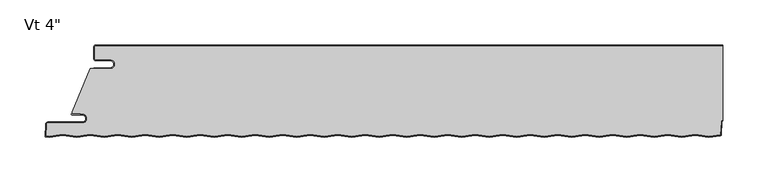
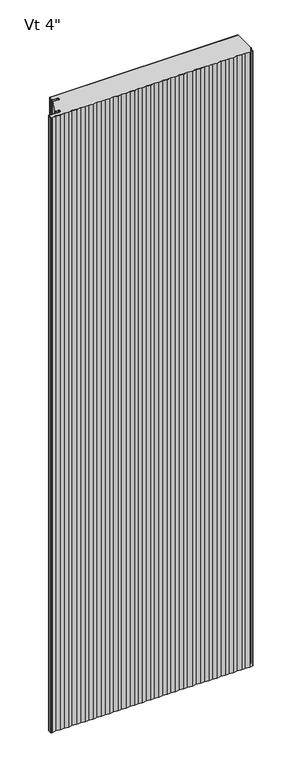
"""IFC4 building model written with IfcOpenShell, lengths in millimetres: plate geometry."""

from ifc_helpers import new_model, si_unit, point, frame_2d, origin, origin_with_axes, place, context, project, spatial, polyline, circle_curve, trimmed, segment, composite_curve, outline, extrude, source, transform, mapped, element, save


def plate_f1faa5ed(model_context):
    return source(origin(), model_context, "Body", "SweptSolid", [
        extrude(outline(composite_curve([segment(polyline([(-329.9499998, -16.4625), (-345.8249998, -16.4625)]), True, "CONTINUOUS"), segment(trimmed(circle_curve(frame_2d((-345.8249998, -15.08125)), 1.38125), [point((-345.8249998, -16.4625))], [point((-347.2062498, -15.08125))], False, "CARTESIAN"), True, "CONTINUOUS"), segment(polyline([(-347.2062498, -15.08125), (-347.2062498, -2.38125)]), True, "CONTINUOUS"), segment(trimmed(circle_curve(frame_2d((-345.8249998, -2.38125)), 1.38125), [point((-347.2062498, -2.38125))], [point((-345.8249998, -1.0))], False, "CARTESIAN"), True, "CONTINUOUS"), segment(polyline([(-345.8249998, -1.0), (348.9999998, -1.0), (348.9999998, -83.191556)]), True, "CONTINUOUS"), segment(trimmed(circle_curve(frame_2d((349.5261348, -85.725)), 2.5875), [point((348.9999998, -83.191556))], [point((346.9421809, -85.5895807))], True, "CARTESIAN"), True, "CONTINUOUS"), segment(polyline([(346.9421809, -85.5895807), (346.2043986, -99.6673048), (333.4662502, -101.7054086), (318.4288176, -99.2994194), (303.1888176, -101.7378194), (287.9488176, -99.2994194), (272.7088176, -101.7378194), (257.4688176, -99.2994194), (242.2288176, -101.7378194), (226.9888176, -99.2994194), (211.7488176, -101.7378194), (196.5088176, -99.2994194), (181.2688176, -101.7378194), (166.0288176, -99.2994194), (150.7888176, -101.7378194), (135.5488176, -99.2994194), (120.3088176, -101.7378194), (105.0688176, -99.2994194), (89.8288176, -101.7378194), (74.5888176, -99.2994194), (59.3488176, -101.7378194), (44.1088176, -99.2994194), (28.8688176, -101.7378194), (13.6288176, -99.2994194), (-1.6111824, -101.7378194), (-16.8511824, -99.2994194), (-32.0911824, -101.7378194), (-47.3311824, -99.2994194), (-62.5711824, -101.7378194), (-77.8111824, -99.2994194), (-93.0511824, -101.7378194), (-108.2911824, -99.2994194), (-123.5311824, -101.7378194), (-138.7711824, -99.2994194), (-154.0111824, -101.7378194), (-169.2511824, -99.2994194), (-184.4911824, -101.7378194), (-199.7311824, -99.2994194), (-214.9711824, -101.7378194), (-230.2111824, -99.2994194), (-245.4511824, -101.7378194), (-260.6911824, -99.2994194), (-275.9311824, -101.7378194), (-291.1711824, -99.2994194), (-306.4111824, -101.7378194), (-321.6511824, -99.2994194), (-336.8911824, -101.7378194), (-352.1311824, -99.2994194), (-367.3711824, -101.7378194), (-382.6111824, -99.2994194), (-397.8511824, -101.7378194), (-401.1735092, -101.2062471), (-400.483179, -88.033961)]), True, "CONTINUOUS"), segment(trimmed(circle_curve(frame_2d((-399.1038219, -88.10625)), 1.38125), [point((-400.483179, -88.033961))], [point((-399.1038219, -86.725))], False, "CARTESIAN"), True, "CONTINUOUS"), segment(polyline([(-399.1038219, -86.725), (-360.9205173, -86.725)]), True, "CONTINUOUS"), segment(trimmed(circle_curve(frame_2d((-360.9205173, -81.75625)), 4.96875), [point((-360.9205173, -86.725))], [point((-360.9205173, -76.7875))], True, "CARTESIAN"), True, "CONTINUOUS"), segment(polyline([(-360.9205173, -76.7875), (-362.5080173, -76.99375), (-362.5080173, -76.2), (-372.0187498, -76.2), (-372.0187498, -74.6157227), (-352.1323421, -26.4), (-329.9499998, -26.4)]), True, "CONTINUOUS"), segment(trimmed(circle_curve(frame_2d((-329.9499998, -21.43125)), 4.96875), [point((-329.9499998, -26.4))], [point((-329.9499998, -16.4625))], True, "CARTESIAN"), True, "CONTINUOUS")], self_intersect=False)), origin_with_axes(), (0.0, 0.0, 1.0), 2400.0),
        extrude(outline(composite_curve([segment(polyline([(-348.2062498, -25.4), (-329.9499998, -25.4)]), True, "CONTINUOUS"), segment(trimmed(circle_curve(frame_2d((-329.9499998, -21.43125)), 3.96875), [point((-329.9499998, -25.4))], [point((-329.9499998, -17.4625))], True, "CARTESIAN"), True, "CONTINUOUS"), segment(polyline([(-329.9499998, -17.4625), (-345.8249998, -17.4625)]), True, "CONTINUOUS"), segment(trimmed(circle_curve(frame_2d((-345.8249998, -15.08125)), 2.38125), [point((-345.8249998, -17.4625))], [point((-348.2062498, -15.08125))], False, "CARTESIAN"), True, "CONTINUOUS"), segment(polyline([(-348.2062498, -15.08125), (-348.2062498, -2.38125)]), True, "CONTINUOUS"), segment(trimmed(circle_curve(frame_2d((-345.8249998, -2.38125)), 2.38125), [point((-348.2062498, -2.38125))], [point((-345.8249998, 0.0))], False, "CARTESIAN"), True, "CONTINUOUS"), segment(polyline([(-345.8249998, 0.0), (348.9999998, 0.0), (348.9999998, -1.0), (-345.8249998, -1.0)]), True, "CONTINUOUS"), segment(trimmed(circle_curve(frame_2d((-345.8249998, -2.38125)), 1.38125), [point((-345.8249998, -1.0))], [point((-347.2062498, -2.38125))], True, "CARTESIAN"), True, "CONTINUOUS"), segment(polyline([(-347.2062498, -2.38125), (-347.2062498, -15.08125)]), True, "CONTINUOUS"), segment(trimmed(circle_curve(frame_2d((-345.8249998, -15.08125)), 1.38125), [point((-347.2062498, -15.08125))], [point((-345.8249998, -16.4625))], True, "CARTESIAN"), True, "CONTINUOUS"), segment(polyline([(-345.8249998, -16.4625), (-329.9499998, -16.4625)]), True, "CONTINUOUS"), segment(trimmed(circle_curve(frame_2d((-329.9499998, -21.43125)), 4.96875), [point((-329.9499998, -16.4625))], [point((-329.9499998, -26.4))], False, "CARTESIAN"), True, "CONTINUOUS"), segment(polyline([(-329.9499998, -26.4), (-348.2062498, -26.4), (-348.2062498, -25.4)]), True, "CONTINUOUS")], self_intersect=False)), origin_with_axes(), (0.0, 0.0, 1.0), 2400.0),
        extrude(outline(composite_curve([segment(polyline([(-372.2314548, -76.2), (-362.5080173, -76.2), (-362.5080173, -76.99375), (-360.9205173, -76.7875)]), True, "CONTINUOUS"), segment(trimmed(circle_curve(frame_2d((-360.9205173, -81.75625)), 4.96875), [point((-360.9205173, -76.7875))], [point((-360.9205173, -86.725))], False, "CARTESIAN"), True, "CONTINUOUS"), segment(polyline([(-360.9205173, -86.725), (-399.1038219, -86.725)]), True, "CONTINUOUS"), segment(trimmed(circle_curve(frame_2d((-399.1038219, -88.10625)), 1.38125), [point((-399.1038219, -86.725))], [point((-400.483179, -88.033961))], True, "CARTESIAN"), True, "CONTINUOUS"), segment(polyline([(-400.483179, -88.033961), (-401.1788914, -101.3089447), (-397.8709185, -101.8382204), (-382.6309185, -99.3998204), (-367.3909185, -101.8382204), (-352.1509185, -99.3998204), (-336.9109185, -101.8382204), (-321.6709185, -99.3998204), (-306.4309185, -101.8382204), (-291.1909185, -99.3998204), (-275.9509185, -101.8382204), (-260.7109185, -99.3998204), (-245.4709185, -101.8382204), (-230.2309185, -99.3998204), (-214.9909185, -101.8382204), (-199.7509185, -99.3998204), (-184.5109185, -101.8382204), (-169.2709185, -99.3998204), (-154.0309185, -101.8382204), (-138.7909185, -99.3998204), (-123.5509185, -101.8382204), (-108.3109185, -99.3998204), (-93.0709185, -101.8382204), (-77.8309185, -99.3998204), (-62.5909185, -101.8382204), (-47.3509185, -99.3998204), (-32.1109185, -101.8382204), (-16.8709185, -99.3998204), (-1.6309185, -101.8382204), (13.6090815, -99.3998204), (28.8490815, -101.8382204), (44.0890815, -99.3998204), (59.3290815, -101.8382204), (74.5690815, -99.3998204), (89.8090815, -101.8382204), (105.0490815, -99.3998204), (120.2890815, -101.8382204), (135.5290815, -99.3998204), (150.7690815, -101.8382204), (166.0090815, -99.3998204), (181.2490815, -101.8382204), (196.4890815, -99.3998204), (211.7290815, -101.8382204), (226.9690815, -99.3998204), (242.2090815, -101.8382204), (257.4490815, -99.3998204), (272.6890815, -101.8382204), (287.9290815, -99.3998204), (303.1690815, -101.8382204), (318.4090815, -99.3998204), (333.4465141, -101.8058096), (345.7302425, -99.840413)]), True, "CONTINUOUS"), segment(trimmed(circle_curve(frame_2d((345.637423, -99.2602917)), 0.5875), [point((345.7302425, -99.840413))], [point((346.2241179, -99.291039))], True, "CARTESIAN"), True, "CONTINUOUS"), segment(polyline([(346.2241179, -99.291039), (346.9421809, -85.5895807)]), True, "CONTINUOUS"), segment(trimmed(circle_curve(frame_2d((349.5261348, -85.725)), 2.5875), [point((346.9421809, -85.5895807))], [point((348.9999998, -83.191556))], False, "CARTESIAN"), True, "CONTINUOUS"), segment(polyline([(348.9999998, -83.191556), (348.9999998, -84.2272222)]), True, "CONTINUOUS"), segment(trimmed(circle_curve(frame_2d((349.5261348, -85.725)), 1.5875), [point((348.9999998, -84.2272222))], [point((347.9408104, -85.6419167))], True, "CARTESIAN"), True, "CONTINUOUS"), segment(polyline([(347.9408104, -85.6419167), (347.2227474, -99.343375)]), True, "CONTINUOUS"), segment(trimmed(circle_curve(frame_2d((345.637423, -99.2602917)), 1.5875), [point((347.2227474, -99.343375))], [point((345.888233, -100.8278537))], False, "CARTESIAN"), True, "CONTINUOUS"), segment(polyline([(345.888233, -100.8278537), (333.4465141, -102.8185287), (318.4090815, -100.4125395), (303.1690815, -102.8509395), (287.9290815, -100.4125395), (272.6890815, -102.8509395), (257.4490815, -100.4125395), (242.2090815, -102.8509395), (226.9690815, -100.4125395), (211.7290815, -102.8509395), (196.4890815, -100.4125395), (181.2490815, -102.8509395), (166.0090815, -100.4125395), (150.7690815, -102.8509395), (135.5290815, -100.4125395), (120.2890815, -102.8509395), (105.0490815, -100.4125395), (89.8090815, -102.8509395), (74.5690815, -100.4125395), (59.3290815, -102.8509395), (44.0890815, -100.4125395), (28.8490815, -102.8509395), (13.6090815, -100.4125395), (-1.6309185, -102.8509395), (-16.8709185, -100.4125395), (-32.1109185, -102.8509395), (-47.3509185, -100.4125395), (-62.5909185, -102.8509395), (-77.8309185, -100.4125395), (-93.0709185, -102.8509395), (-108.3109185, -100.4125395), (-123.5509185, -102.8509395), (-138.7909185, -100.4125395), (-154.0309185, -102.8509395), (-169.2709185, -100.4125395), (-184.5109185, -102.8509395), (-199.7509185, -100.4125395), (-214.9909185, -102.8509395), (-230.2309185, -100.4125395), (-245.4709185, -102.8509395), (-260.7109185, -100.4125395), (-275.9509185, -102.8509395), (-291.1909185, -100.4125395), (-306.4309185, -102.8509395), (-321.6709185, -100.4125395), (-336.9109185, -102.8509395), (-352.1509185, -100.4125395), (-367.3909185, -102.8509395), (-382.6309185, -100.4125395), (-397.8709185, -102.8509395), (-402.2245698, -102.1543553), (-401.4818085, -87.981625)]), True, "CONTINUOUS"), segment(trimmed(circle_curve(frame_2d((-399.1038219, -88.10625)), 2.38125), [point((-401.4818085, -87.981625))], [point((-399.1038219, -85.725))], False, "CARTESIAN"), True, "CONTINUOUS"), segment(polyline([(-399.1038219, -85.725), (-360.9205173, -85.725)]), True, "CONTINUOUS"), segment(trimmed(circle_curve(frame_2d((-360.9205173, -81.75625)), 3.96875), [point((-360.9205173, -85.725))], [point((-360.9205173, -77.7875))], True, "CARTESIAN"), True, "CONTINUOUS"), segment(polyline([(-360.9205173, -77.7875), (-372.2314548, -77.7875)]), True, "CONTINUOUS"), segment(trimmed(circle_curve(frame_2d((-372.2314548, -76.99375)), 0.79375), [point((-372.2314548, -77.7875))], [point((-372.2314548, -76.2))], False, "CARTESIAN"), True, "CONTINUOUS")], self_intersect=False)), origin_with_axes(), (0.0, 0.0, 1.0), 2400.0),
    ])


if __name__ == "__main__":
    model = new_model("IFC4")
    model_context = context("Model", 3, world=origin())
    ifc_project = project(units=[si_unit("LENGTHUNIT", "METRE", prefix="MILLI")], contexts=[model_context])
    site = spatial("IfcSite", under=ifc_project)
    building = spatial("IfcBuilding", under=site)
    placement = place(None, origin())
    plate_shape = plate_f1faa5ed(model_context)
    element("IfcPlate", 1, ObjectType="KIP-30-DWHR-R19-CP-Vt-S : Vt 4\"", at=placement, inside=building, context=model_context, shape_type="MappedRepresentation", body=[
        mapped(plate_shape, transform((0.0, 0.0, 0.0), x_axis=(1.0, 0.0, 0.0), y_axis=(0.0, 1.0, 0.0), z_axis=(0.0, 0.0, 1.0))),
    ])
    save(model, "model.ifc")
